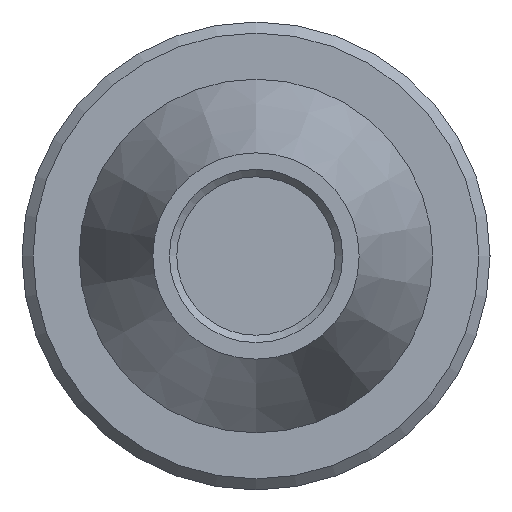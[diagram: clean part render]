
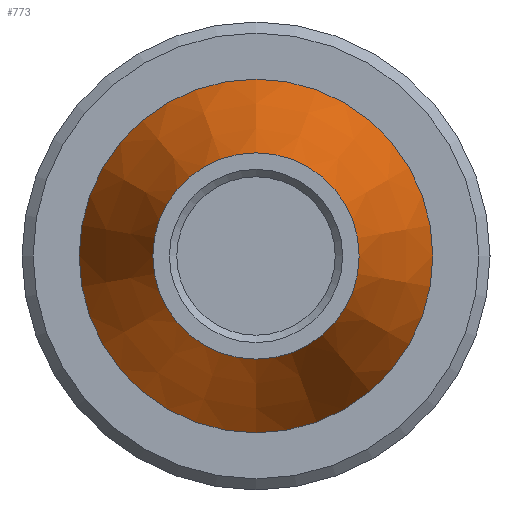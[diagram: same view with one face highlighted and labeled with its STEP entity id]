
A CAD part, left-side view. The second image highlights one B-rep face of the part: STEP entity #773.
In plain terms, the highlighted conical face has half-angle 21.801 degrees and reference radius 5 mm.
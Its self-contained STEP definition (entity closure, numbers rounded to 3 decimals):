
#31=CONICAL_SURFACE('',#2544,5.,21.801);
#625=FACE_BOUND('',#1124,.T.);
#626=FACE_BOUND('',#1125,.T.);
#773=ADVANCED_FACE('',(#625,#626),#31,.T.);
#1124=EDGE_LOOP('',(#1622));
#1125=EDGE_LOOP('',(#1623));
#1622=ORIENTED_EDGE('',*,*,#2202,.F.);
#1623=ORIENTED_EDGE('',*,*,#2190,.F.);
#1914=VERTEX_POINT('',#15417);
#1926=VERTEX_POINT('',#15451);
#2190=EDGE_CURVE('',#1914,#1914,#2324,.T.);
#2202=EDGE_CURVE('',#1926,#1926,#2336,.T.);
#2324=CIRCLE('',#2517,4.8);
#2336=CIRCLE('',#2539,2.8);
#2517=AXIS2_PLACEMENT_3D('',#15416,#3059,#3060);
#2539=AXIS2_PLACEMENT_3D('',#15450,#3103,#3104);
#2544=AXIS2_PLACEMENT_3D('',#15458,#3113,#3114);
#3059=DIRECTION('',(1.,0.,0.));
#3060=DIRECTION('',(0.,0.,1.));
#3103=DIRECTION('',(-1.,0.,0.));
#3104=DIRECTION('',(0.,0.,-1.));
#3113=DIRECTION('',(1.,0.,0.));
#3114=DIRECTION('',(0.,0.,-1.));
#15416=CARTESIAN_POINT('',(-32.4,-25.,0.));
#15417=CARTESIAN_POINT('',(-32.4,-25.,4.8));
#15450=CARTESIAN_POINT('',(-37.4,-25.,0.));
#15451=CARTESIAN_POINT('',(-37.4,-25.,-2.8));
#15458=CARTESIAN_POINT('',(-31.9,-25.,0.));
